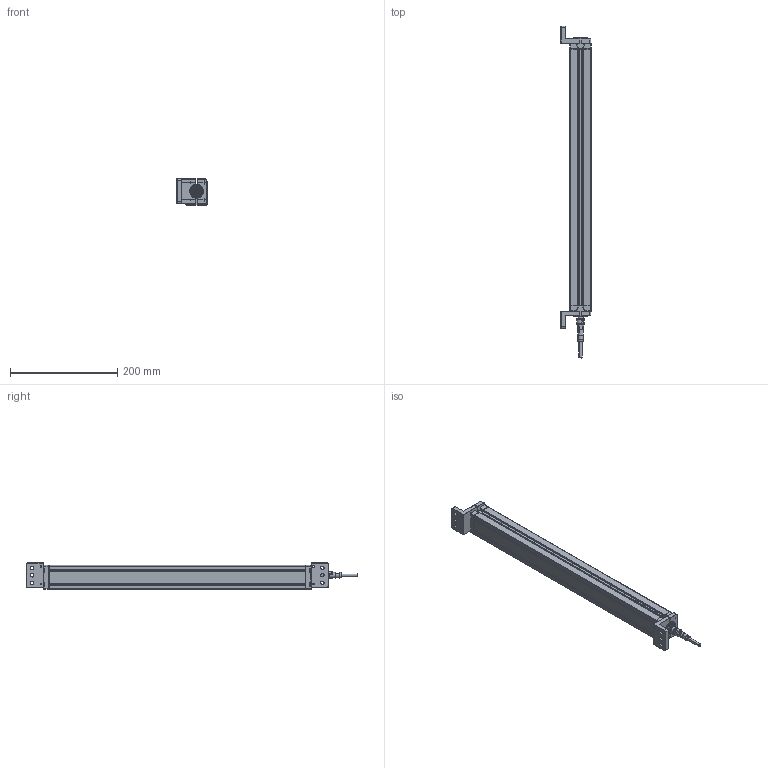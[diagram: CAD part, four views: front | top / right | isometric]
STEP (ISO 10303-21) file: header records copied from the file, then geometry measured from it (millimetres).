
FILE_DESCRIPTION (( 'STEP AP214' ), '1' );
FILE_NAME ('SH10 17.7in with Brackets Step.STEP', '2026-09-02T19:41:26', ( '' ), ( '' ), 'SwSTEP 2.0', 'SolidWorks 2025', '' );
FILE_SCHEMA (( 'AUTOMOTIVE_DESIGN' ));
Length unit declared in the file: millimetre
Products named in the file (4): 02-4017-00_V241.stp; Cable Female End; SH10 17.7in with Brackets Step; 450 Solidworks
Assembly tree (4 placements, depth 2):
  SH10 17.7in with Brackets Step
    450 Solidworks
    02-4017-00_V241.stp  x2
    Cable Female End
Bounding box: 56.2 x 618.64 x 48.75 mm (x, y, z)
Volume: 340813.1 mm3; surface area: 244041.7 mm2
Topology: 12 solids, 12 shells, 1215 faces, 3151 edges, 1991 vertices
Faces by surface type: cylinder 563, plane 411, bspline 143, torus 52, cone 46
Entity records: 48783 total; most frequent: CARTESIAN_POINT 12992, ORIENTED_EDGE 5752, DIRECTION 5678, EDGE_CURVE 2876, AXIS2_PLACEMENT_3D 2114, VERTEX_POINT 1843, VECTOR 1450, LINE 1450
